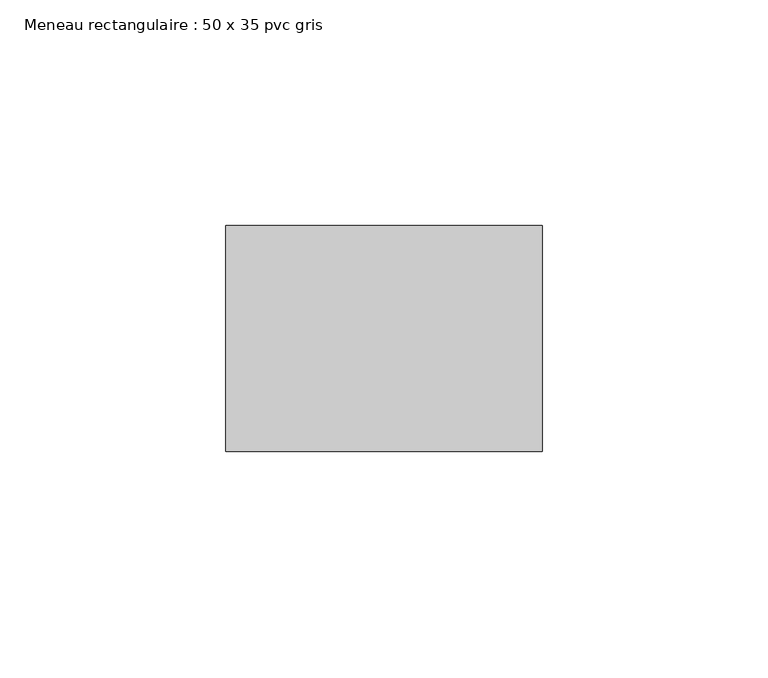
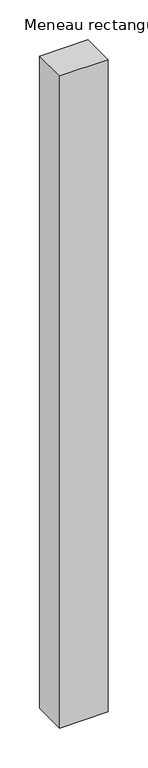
"""IFC4 building model written with IfcOpenShell, lengths in millimetres: member geometry, Meneau rectangulaire : 50 x 35 pvc gris."""

from ifc_helpers import new_model, si_unit, frame, origin, place, context, project, spatial, polyline, outline, extrude, source, transform, mapped, element, save


def meneau_rectangulaire_50_x_35_pvc_gris_14ba23fb(model_context):
    return source(origin(), model_context, "Body", "SweptSolid", [
        extrude(outline(polyline([(0.0, 0.0), (0.0, -50.0), (-70.0, -50.0), (-70.0, 0.0), (0.0, 0.0)])), frame((0.0, 0.0, -996.290296), z_axis=(0.0, 0.0, 1.0), x_axis=(1.0, 0.0, 0.0)), (0.0, 0.0, 1.0), 996.290296),
    ])


if __name__ == "__main__":
    model = new_model("IFC4")
    model_context = context("Model", 3, world=origin())
    ifc_project = project(units=[si_unit("LENGTHUNIT", "METRE", prefix="MILLI")], contexts=[model_context])
    site = spatial("IfcSite", under=ifc_project)
    building = spatial("IfcBuilding", under=site)
    placement = place(None, origin())
    meneau_rectangulaire_50_x_35_pvc_gris_shape = meneau_rectangulaire_50_x_35_pvc_gris_14ba23fb(model_context)
    element("IfcMember", 1, ObjectType="Meneau rectangulaire : 50 x 35 pvc gris", at=placement, inside=building, context=model_context, shape_type="MappedRepresentation", body=[
        mapped(meneau_rectangulaire_50_x_35_pvc_gris_shape, transform((0.0, 0.0, 0.0), x_axis=(1.0, 0.0, 0.0), y_axis=(0.0, 1.0, 0.0), z_axis=(0.0, 0.0, 1.0))),
    ])
    save(model, "model.ifc")
